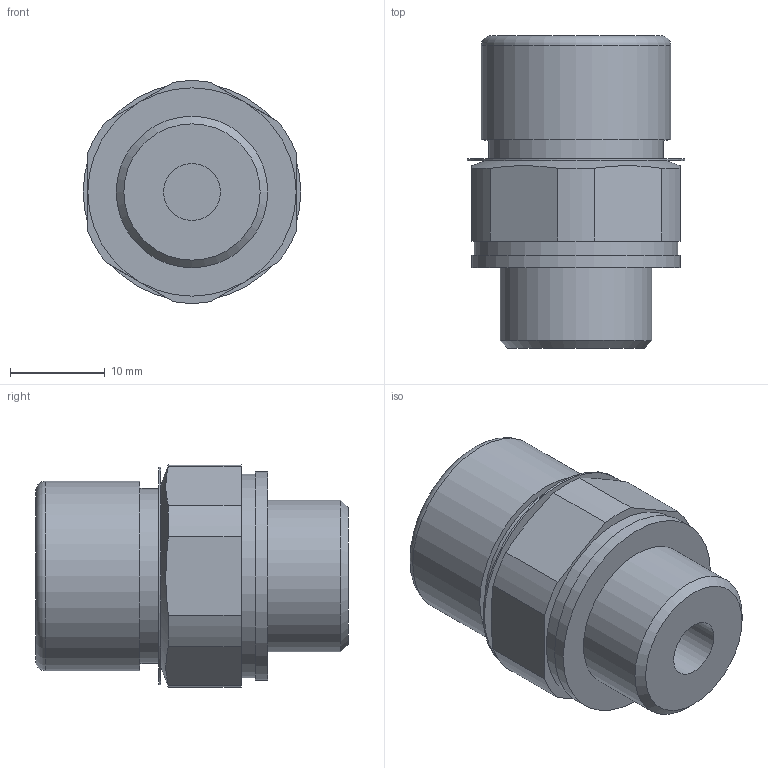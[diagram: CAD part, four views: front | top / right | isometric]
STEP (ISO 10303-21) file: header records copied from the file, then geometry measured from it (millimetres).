
FILE_DESCRIPTION( ( 'STEP AP203' ), '1' );
FILE_NAME( 'C:/Temp/Ganter_Step_05_03_2020/data/3_5/gn881/Breather valve GN 881-M16x1,5-200-MS-M.stp', '2020-03-12T13:42:36', ( 'License CC BY-ND 4.0' ), ( 'CADENAS' ), ' ', 'PARTsolutions', ' ' );
FILE_SCHEMA( ( 'CONFIG_CONTROL_DESIGN' ) );
Length unit declared in the file: millimetre
Products named in the file (1): _Breather valve GN 881-M16x1,5-200-MS-M
Bounding box: 23 x 33 x 23.46 mm (x, y, z)
Volume: 9795.4 mm3; surface area: 3492.7 mm2
Topology: 1 solids, 1 shells, 34 faces, 70 edges, 46 vertices
Faces by surface type: plane 16, cylinder 14, cone 3, torus 1
Full cylindrical faces by diameter (mm): 6 x1, 16 x1, 18.5 x1, 19 x1, 20 x1, 21.5 x1, 22 x1, 23 x1
Entity records: 890 total; most frequent: CARTESIAN_POINT 161, DIRECTION 152, ORIENTED_EDGE 112, AXIS2_PLACEMENT_3D 67, EDGE_CURVE 56, EDGE_LOOP 54, VERTEX_POINT 44, FACE_OUTER_BOUND 43
